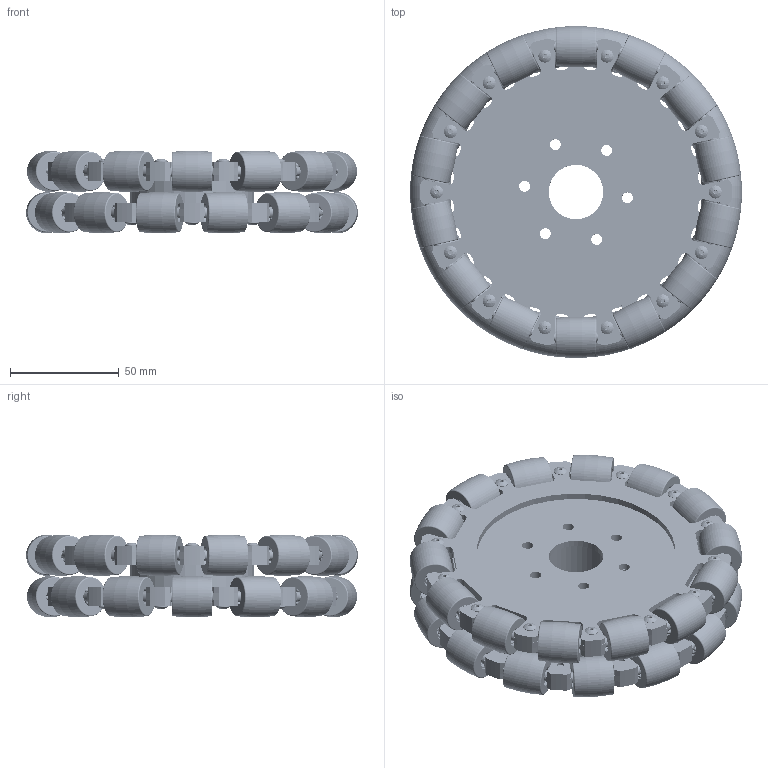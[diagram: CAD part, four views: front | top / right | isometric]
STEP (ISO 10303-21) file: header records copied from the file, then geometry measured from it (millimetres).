
FILE_DESCRIPTION (( 'STEP AP214' ), '1' );
FILE_NAME ('14085.STEP', '2017-11-08T06:55:42', ( 'nss000' ), ( 'Microsoft' ), 'SwSTEP 2.0', 'SolidWorks 2016', '' );
FILE_SCHEMA (( 'AUTOMOTIVE_DESIGN' ));
Length unit declared in the file: millimetre
Products named in the file (11): 6寸90度14分车轮-多件弧形轮组合; 6渡90僅14煦陬謫-穩隊3X8; 6寸90度14分车轮-单件弧形轮组合; 6渡90僅14煦陬謫-階杶朴3X朴5X2; 旮僱⑩粣創603zz; 6寸90度14分车轮-弧形轮-销; 6寸90度14分车轮-弧形轮; 6寸90度14分车轮-弧形轮夹板; 6寸90度14分车轮-弧形轮固定板; 6寸90度14分车轮-后轮连接体; 14085
Assembly tree (40 placements, depth 4):
  14085
    6寸90度14分车轮-后轮连接体
    6寸90度14分车轮-多件弧形轮组合  x2
      6寸90度14分车轮-弧形轮固定板
      6寸90度14分车轮-弧形轮夹板
      6寸90度14分车轮-单件弧形轮组合
        6寸90度14分车轮-弧形轮
        6寸90度14分车轮-弧形轮-销
        旮僱⑩粣創603zz  x2
        6渡90僅14煦陬謫-階杶朴3X朴5X2  x2
      6渡90僅14煦陬謫-穩隊3X8
Bounding box: 152.25 x 152.25 x 37.89 mm (x, y, z)
Volume: 284700.2 mm3; surface area: 215651.9 mm2
Topology: 651 solids, 651 shells, 4532 faces, 11370 edges, 7468 vertices
Faces by surface type: cylinder 1858, plane 1274, sphere 840, torus 560
Entity records: 17792 total; most frequent: DIRECTION 3072, CARTESIAN_POINT 2993, ORIENTED_EDGE 2912, EDGE_CURVE 1456, AXIS2_PLACEMENT_3D 1049, VECTOR 974, LINE 974, VERTEX_POINT 970
